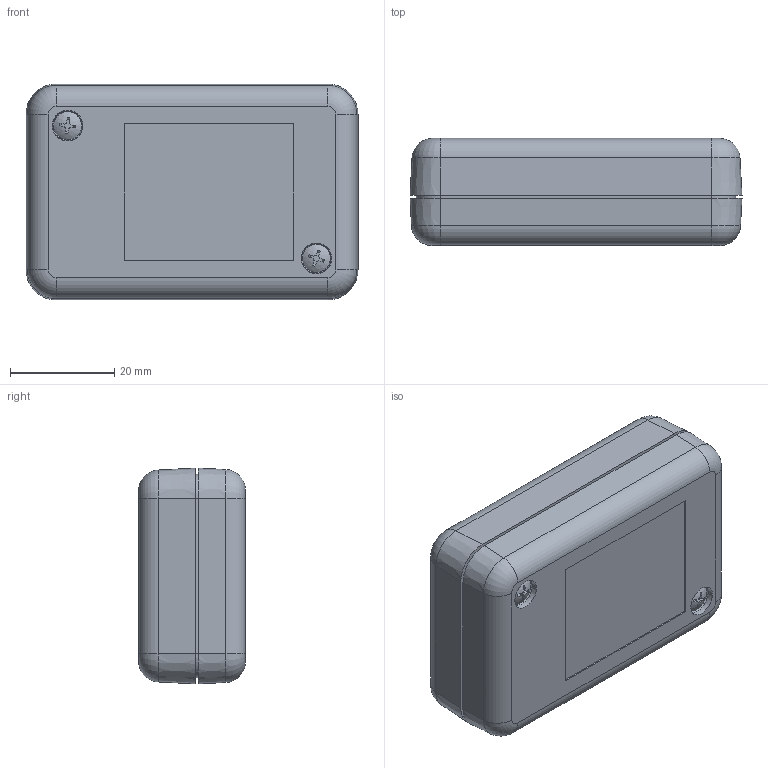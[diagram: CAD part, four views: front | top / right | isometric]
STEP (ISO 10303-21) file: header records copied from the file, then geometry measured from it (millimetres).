
FILE_DESCRIPTION (( 'STEP AP214' ), '1' );
FILE_NAME ('KT-35T0.STEP', '2023-10-05T18:14:23', ( '' ), ( '' ), 'SwSTEP 2.0', 'SolidWorks 2023', '' );
FILE_SCHEMA (( 'AUTOMOTIVE_DESIGN' ));
Length unit declared in the file: inch
Products named in the file (4): KT-35T0; KT-35C_KT-35TC0; KT-35B_KT-35B; SCREWS-HL5-8-BR_default
Assembly tree (4 placements, depth 2):
  KT-35T0
    KT-35B_KT-35B
    KT-35C_KT-35TC0
    SCREWS-HL5-8-BR_default  x2
Bounding box: 63.55 x 20.47 x 41.33 mm (x, y, z)
Volume: 18588.6 mm3; surface area: 17653.2 mm2
Topology: 4 solids, 4 shells, 221 faces, 551 edges, 353 vertices
Faces by surface type: plane 95, cylinder 52, cone 44, torus 20, bspline 8, sphere 2
Full cylindrical faces by diameter (mm): 1.651 x22, 2.929 x2
Entity records: 6047 total; most frequent: CARTESIAN_POINT 2203, DIRECTION 817, ORIENTED_EDGE 720, EDGE_CURVE 360, AXIS2_PLACEMENT_3D 314, VERTEX_POINT 239, EDGE_LOOP 201, LINE 189
